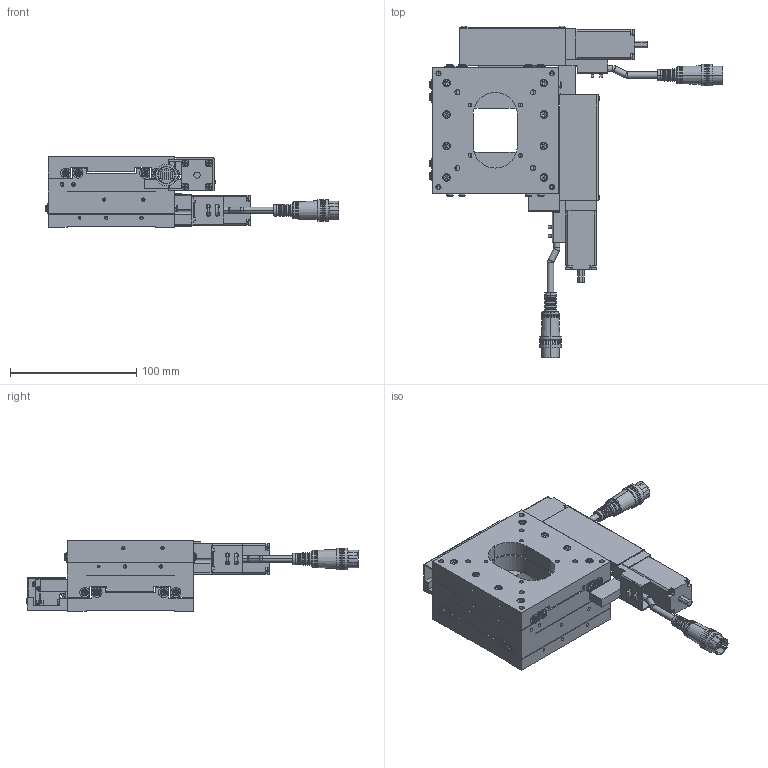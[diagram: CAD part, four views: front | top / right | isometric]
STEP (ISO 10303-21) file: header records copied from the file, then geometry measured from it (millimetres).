
FILE_DESCRIPTION (( 'STEP AP203' ), '1' );
FILE_NAME ('YA10A-R2H01.STEP', '2019-06-10T02:57:24', ( '' ), ( '' ), 'SwSTEP 2.0', 'SolidWorks 2018', '' );
FILE_SCHEMA (( 'CONFIG_CONTROL_DESIGN' ));
Length unit declared in the file: millimetre
Products named in the file (12): table; second table-Part-3; YA10A-R2H01; base-Part-4; base-Part-3; base; second table-Part-4; second table-Part-1; base-Part-2; second table-Part-2; base-Part-1; second table
Assembly tree (11 placements, depth 3):
  YA10A-R2H01
    second table
      second table-Part-1
      second table-Part-2
      second table-Part-3
      second table-Part-4
    base
      base-Part-1
      base-Part-2
      base-Part-3
      base-Part-4
    table
Bounding box: 232.98 x 263.18 x 56 mm (x, y, z)
Volume: 554679.5 mm3; surface area: 178542.7 mm2
Topology: 9 solids, 17 shells, 3368 faces, 8322 edges, 5062 vertices
Faces by surface type: plane 2028, cylinder 664, cone 488, torus 112, sphere 76
Entity records: 99414 total; most frequent: DIRECTION 17836, CARTESIAN_POINT 17016, ORIENTED_EDGE 16324, EDGE_CURVE 8162, AXIS2_PLACEMENT_3D 6398, VERTEX_POINT 5050, VECTOR 5040, LINE 5040
